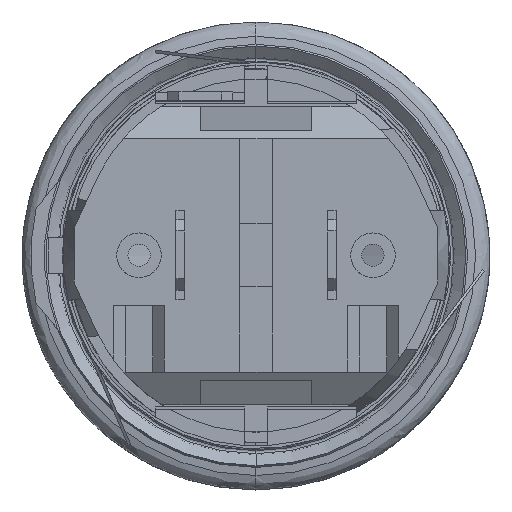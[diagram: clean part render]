
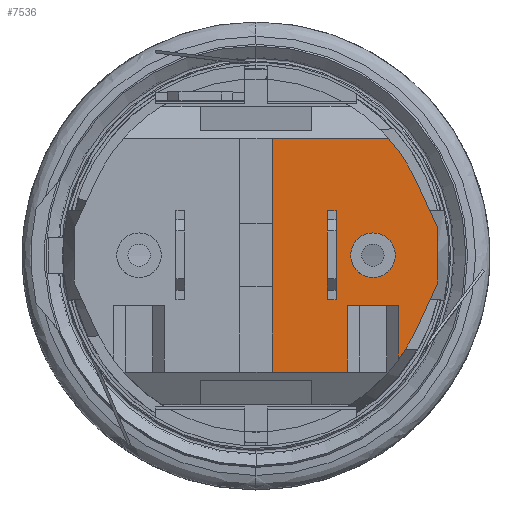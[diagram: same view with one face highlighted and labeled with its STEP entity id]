
A CAD part, top view. The second image highlights one B-rep face of the part: STEP entity #7536.
In plain terms, the highlighted planar face has unit normal (0, 0, 1).
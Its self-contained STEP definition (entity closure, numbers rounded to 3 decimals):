
#4076=CARTESIAN_POINT(' ',(11.873,10.5,21.5));
#4077=VERTEX_POINT(' ',#4076);
#4096=CARTESIAN_POINT(' ',(0.,0.,21.5));
#4101=DIRECTION(' ',(0.,0.,1.));
#4106=DIRECTION(' ',(0.908,0.419,0.));
#4111=AXIS2_PLACEMENT_3D(' ',#4096,#4101,#4106);
#4116=CIRCLE('',#4111,15.85);
#4121=CARTESIAN_POINT(' ',(14.395,6.634,21.5));
#4122=VERTEX_POINT(' ',#4121);
#4126=EDGE_CURVE(' ',#4122,#4077,#4116,.T.);
#4656=CARTESIAN_POINT(' ',(16.3,2.5,21.5));
#4661=DIRECTION(' ',(-0.419,0.908,0.));
#4666=VECTOR(' ',#4661,1.);
#4671=LINE('',#4656,#4666);
#4676=CARTESIAN_POINT(' ',(16.3,2.5,21.5));
#4677=VERTEX_POINT(' ',#4676);
#4681=EDGE_CURVE(' ',#4677,#4122,#4671,.T.);
#4936=CARTESIAN_POINT(' ',(16.3,-2.5,21.5));
#4937=VERTEX_POINT(' ',#4936);
#4951=CARTESIAN_POINT(' ',(14.395,-6.634,21.5));
#4956=DIRECTION(' ',(0.419,0.908,0.));
#4961=VECTOR(' ',#4956,1.);
#4966=LINE('',#4951,#4961);
#4971=CARTESIAN_POINT(' ',(14.395,-6.634,21.5));
#4972=VERTEX_POINT(' ',#4971);
#4976=EDGE_CURVE(' ',#4972,#4937,#4966,.T.);
#5131=CARTESIAN_POINT(' ',(0.,0.,21.5));
#5136=DIRECTION(' ',(0.,-0.,1.));
#5141=DIRECTION(' ',(0.804,-0.594,0.));
#5146=AXIS2_PLACEMENT_3D(' ',#5131,#5136,#5141);
#5151=CIRCLE('',#5146,15.85);
#5156=CARTESIAN_POINT(' ',(12.75,-9.416,21.5));
#5157=VERTEX_POINT(' ',#5156);
#5161=EDGE_CURVE(' ',#5157,#4972,#5151,.T.);
#6801=CARTESIAN_POINT(' ',(1.45,10.5,21.5));
#6802=VERTEX_POINT(' ',#6801);
#6816=CARTESIAN_POINT(' ',(11.873,10.5,21.5));
#6821=DIRECTION(' ',(-1.,0.,0.));
#6826=VECTOR(' ',#6821,1.);
#6831=LINE('',#6816,#6826);
#6836=EDGE_CURVE(' ',#4077,#6802,#6831,.T.);
#7001=DIRECTION(' ',(0.,0.,1.));
#7006=CARTESIAN_POINT(' ',(1.45,-10.5,21.5));
#7011=DIRECTION(' ',(1.,0.,-0.));
#7016=AXIS2_PLACEMENT_3D(' ',#7006,#7001,#7011);
#7021=PLANE('',#7016);
#7026=CARTESIAN_POINT(' ',(1.45,10.5,21.5));
#7031=DIRECTION(' ',(0.,-1.,0.));
#7036=VECTOR(' ',#7031,1.);
#7041=LINE('',#7026,#7036);
#7046=CARTESIAN_POINT(' ',(1.45,-10.5,21.5));
#7047=VERTEX_POINT(' ',#7046);
#7051=EDGE_CURVE(' ',#6802,#7047,#7041,.T.);
#7056=ORIENTED_EDGE(' ',*,*,#7051,.T.);
#7061=CARTESIAN_POINT(' ',(8.25,-10.5,21.5));
#7066=DIRECTION(' ',(-1.,0.,0.));
#7071=VECTOR(' ',#7066,1.);
#7076=LINE('',#7061,#7071);
#7081=CARTESIAN_POINT(' ',(8.25,-10.5,21.5));
#7082=VERTEX_POINT(' ',#7081);
#7086=EDGE_CURVE(' ',#7082,#7047,#7076,.T.);
#7091=ORIENTED_EDGE(' ',*,*,#7086,.F.);
#7096=CARTESIAN_POINT(' ',(8.25,-4.5,21.5));
#7101=DIRECTION(' ',(0.,-1.,0.));
#7106=VECTOR(' ',#7101,1.);
#7111=LINE('',#7096,#7106);
#7116=CARTESIAN_POINT(' ',(8.25,-4.5,21.5));
#7117=VERTEX_POINT(' ',#7116);
#7121=EDGE_CURVE(' ',#7117,#7082,#7111,.T.);
#7126=ORIENTED_EDGE(' ',*,*,#7121,.F.);
#7131=CARTESIAN_POINT(' ',(12.75,-4.5,21.5));
#7136=DIRECTION(' ',(-1.,0.,0.));
#7141=VECTOR(' ',#7136,1.);
#7146=LINE('',#7131,#7141);
#7151=CARTESIAN_POINT(' ',(12.75,-4.5,21.5));
#7152=VERTEX_POINT(' ',#7151);
#7156=EDGE_CURVE(' ',#7152,#7117,#7146,.T.);
#7161=ORIENTED_EDGE(' ',*,*,#7156,.F.);
#7166=CARTESIAN_POINT(' ',(12.75,-4.5,21.5));
#7171=DIRECTION(' ',(0.,-1.,0.));
#7176=VECTOR(' ',#7171,1.);
#7181=LINE('',#7166,#7176);
#7186=EDGE_CURVE(' ',#7152,#5157,#7181,.T.);
#7191=ORIENTED_EDGE(' ',*,*,#7186,.T.);
#7196=ORIENTED_EDGE(' ',*,*,#5161,.T.);
#7201=ORIENTED_EDGE(' ',*,*,#4976,.T.);
#7206=CARTESIAN_POINT(' ',(16.3,-2.5,21.5));
#7211=DIRECTION(' ',(0.,1.,0.));
#7216=VECTOR(' ',#7211,1.);
#7221=LINE('',#7206,#7216);
#7226=EDGE_CURVE(' ',#4937,#4677,#7221,.T.);
#7231=ORIENTED_EDGE(' ',*,*,#7226,.T.);
#7236=ORIENTED_EDGE(' ',*,*,#4681,.T.);
#7241=ORIENTED_EDGE(' ',*,*,#4126,.T.);
#7246=ORIENTED_EDGE(' ',*,*,#6836,.T.);
#7251=EDGE_LOOP(' ',(#7056,#7091,#7126,#7161,#7191,#7196,#7201,#7231,#7236,#7241,#7246));
#7256=FACE_OUTER_BOUND(' ',#7251,.T.);
#7261=CARTESIAN_POINT(' ',(8.5,0.,21.5));
#7266=DIRECTION(' ',(0.001,-1.,0.));
#7271=VECTOR(' ',#7266,1.);
#7276=LINE('',#7261,#7271);
#7281=CARTESIAN_POINT(' ',(8.5,0.,21.5));
#7282=VERTEX_POINT(' ',#7281);
#7286=CARTESIAN_POINT(' ',(8.5,-0.003,21.5));
#7287=VERTEX_POINT(' ',#7286);
#7291=EDGE_CURVE(' ',#7282,#7287,#7276,.T.);
#7296=ORIENTED_EDGE(' ',*,*,#7291,.F.);
#7301=CARTESIAN_POINT(' ',(10.5,0.,21.5));
#7306=DIRECTION(' ',(0.,0.,1.));
#7311=DIRECTION(' ',(1.,0.,0.));
#7316=AXIS2_PLACEMENT_3D(' ',#7301,#7306,#7311);
#7321=CIRCLE('',#7316,2.);
#7326=CARTESIAN_POINT(' ',(12.5,0.,21.5));
#7327=VERTEX_POINT(' ',#7326);
#7331=EDGE_CURVE(' ',#7327,#7282,#7321,.T.);
#7336=ORIENTED_EDGE(' ',*,*,#7331,.F.);
#7341=CARTESIAN_POINT(' ',(10.5,0.,21.5));
#7346=DIRECTION(' ',(0.,-0.,1.));
#7351=DIRECTION(' ',(-1.,-0.002,0.));
#7356=AXIS2_PLACEMENT_3D(' ',#7341,#7346,#7351);
#7361=CIRCLE('',#7356,2.);
#7366=EDGE_CURVE(' ',#7287,#7327,#7361,.T.);
#7371=ORIENTED_EDGE(' ',*,*,#7366,.F.);
#7376=EDGE_LOOP(' ',(#7296,#7336,#7371));
#7381=FACE_BOUND(' ',#7376,.T.);
#7386=CARTESIAN_POINT(' ',(7.2,-3.,21.5));
#7391=DIRECTION(' ',(0.,1.,0.));
#7396=VECTOR(' ',#7391,1.);
#7401=LINE('',#7386,#7396);
#7406=CARTESIAN_POINT(' ',(7.2,-3.,21.5));
#7407=VERTEX_POINT(' ',#7406);
#7411=CARTESIAN_POINT(' ',(7.2,3.,21.5));
#7412=VERTEX_POINT(' ',#7411);
#7416=EDGE_CURVE(' ',#7407,#7412,#7401,.T.);
#7421=ORIENTED_EDGE(' ',*,*,#7416,.F.);
#7426=CARTESIAN_POINT(' ',(7.2,-3.,21.5));
#7431=DIRECTION(' ',(-1.,0.,0.));
#7436=VECTOR(' ',#7431,1.);
#7441=LINE('',#7426,#7436);
#7446=CARTESIAN_POINT(' ',(6.4,-3.,21.5));
#7447=VERTEX_POINT(' ',#7446);
#7451=EDGE_CURVE(' ',#7407,#7447,#7441,.T.);
#7456=ORIENTED_EDGE(' ',*,*,#7451,.T.);
#7461=CARTESIAN_POINT(' ',(6.4,-3.,21.5));
#7466=DIRECTION(' ',(0.,1.,0.));
#7471=VECTOR(' ',#7466,1.);
#7476=LINE('',#7461,#7471);
#7481=CARTESIAN_POINT(' ',(6.4,3.,21.5));
#7482=VERTEX_POINT(' ',#7481);
#7486=EDGE_CURVE(' ',#7447,#7482,#7476,.T.);
#7491=ORIENTED_EDGE(' ',*,*,#7486,.T.);
#7496=CARTESIAN_POINT(' ',(7.2,3.,21.5));
#7501=DIRECTION(' ',(-1.,0.,0.));
#7506=VECTOR(' ',#7501,1.);
#7511=LINE('',#7496,#7506);
#7516=EDGE_CURVE(' ',#7412,#7482,#7511,.T.);
#7521=ORIENTED_EDGE(' ',*,*,#7516,.F.);
#7526=EDGE_LOOP(' ',(#7421,#7456,#7491,#7521));
#7531=FACE_BOUND(' ',#7526,.T.);
#7536=ADVANCED_FACE('',(#7256,#7381,#7531),#7021,.T.);
